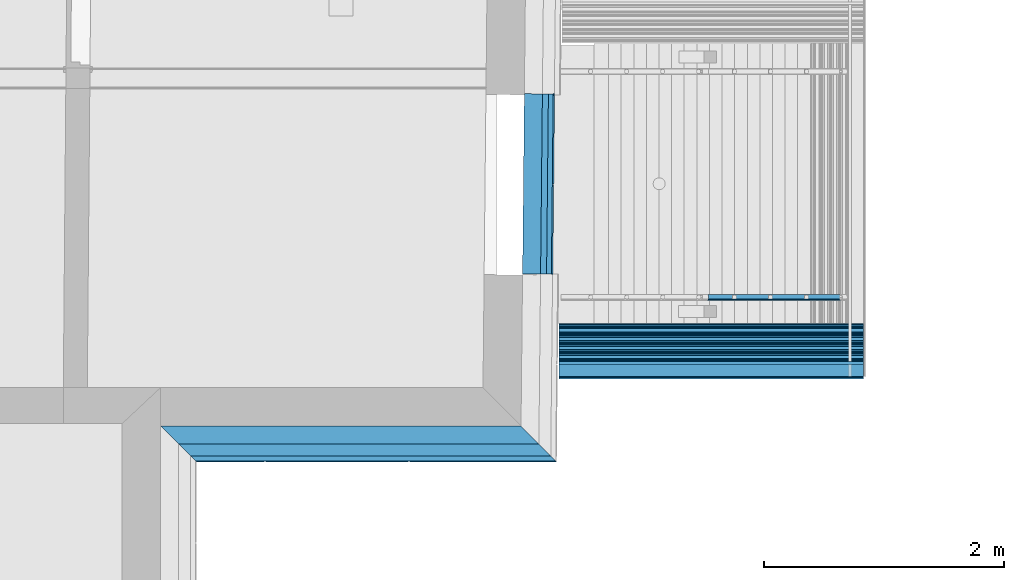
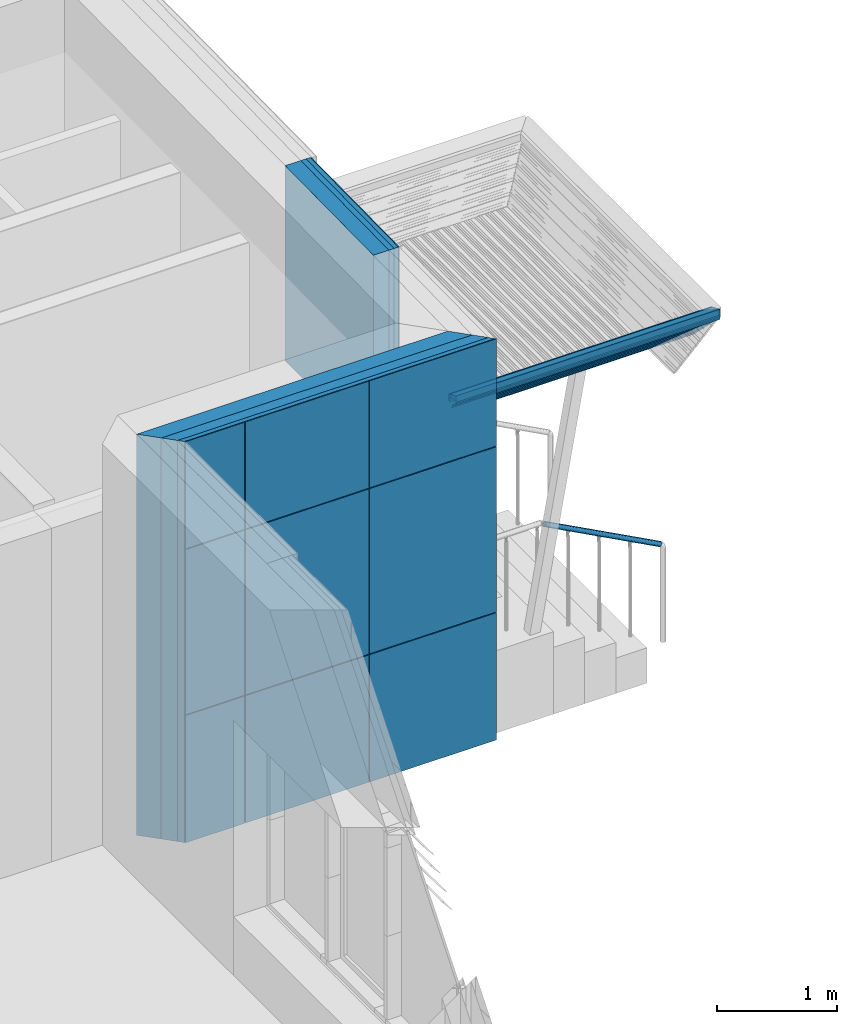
# One storey, part 55 of 418: 19 building element parts, 7 openings, 5 elements without a shape of their own.
"""IFC2X3 building model written with IfcOpenShell, lengths in millimetres."""

from ifc_helpers import new_model, entity, si_unit, converted_unit, derived_unit, money_unit, direction, frame, origin_with_axes, place, context, subcontext, project, spatial, polyline, outline, extrude, faceted_brep, source, transform, mapped, material, type_object, element, aggregate, save


model = new_model("IFC2X3")

# Units and contexts
model_context = context("Model", 3, precision=0.01, world=origin_with_axes(), true_north=direction((0.0, 1.0)))
body_context = subcontext(model_context, "Body", "Model", "MODEL_VIEW")
ifc_project = project(units=[si_unit("LENGTHUNIT", "METRE", prefix="MILLI"), si_unit("AREAUNIT", "SQUARE_METRE"), si_unit("VOLUMEUNIT", "CUBIC_METRE"), converted_unit("PLANEANGLEUNIT", "DEGREE", entity("IfcPlaneAngleMeasure", 0.0174532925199), si_unit("PLANEANGLEUNIT", "RADIAN"), dimensions=[0, 0, 0, 0, 0, 0, 0]), si_unit("SOLIDANGLEUNIT", "STERADIAN"), money_unit("EUR"), converted_unit("TIMEUNIT", "Year", entity("IfcTimeMeasure", 31556926.0), si_unit("TIMEUNIT", "SECOND"), dimensions=[0, 0, 1, 0, 0, 0, 0]), si_unit("MASSUNIT", "GRAM", prefix="KILO"), si_unit("THERMODYNAMICTEMPERATUREUNIT", "DEGREE_CELSIUS"), si_unit("LUMINOUSINTENSITYUNIT", "LUMEN"), si_unit("ENERGYUNIT", "JOULE", prefix="MEGA"), derived_unit("THERMALCONDUCTANCEUNIT", [(si_unit("POWERUNIT", "WATT"), 1), (si_unit("LENGTHUNIT", "METRE"), -1), (si_unit("THERMODYNAMICTEMPERATUREUNIT", "KELVIN"), -1)]), derived_unit("SPECIFICHEATCAPACITYUNIT", [(si_unit("ENERGYUNIT", "JOULE"), 1), (si_unit("MASSUNIT", "GRAM", prefix="KILO"), -1), (si_unit("THERMODYNAMICTEMPERATUREUNIT", "KELVIN"), -1)]), derived_unit("MASSDENSITYUNIT", [(si_unit("MASSUNIT", "GRAM", prefix="KILO"), 1), (si_unit("VOLUMEUNIT", "CUBIC_METRE"), -1)])], contexts=[model_context])

# Site, building, storey
site_placement = place(None, origin_with_axes())
site = spatial("IfcSite", under=ifc_project, at=site_placement, Name="Paldiski mnt 245/1, Tallinn, Harjumaa", CompositionType="COMPLEX")
building_placement = place(site_placement, origin_with_axes())
building = spatial("IfcBuilding", under=site, at=building_placement, Name="RKAS Hoone üldnimetus (kasutust iseloomustav) -> IFC Project Manager -> SOLIBRI", CompositionType="ELEMENT")
storey_placement = place(building_placement, origin_with_axes())
storey = spatial("IfcBuildingStorey", under=building, at=storey_placement, Name="Esimene korrus", CompositionType="ELEMENT", Elevation=0.0)

# Proxies, building element part
building_element_proxy_type_1 = type_object("IfcBuildingElementProxyType", Name="Railing Type", PredefinedType="NOTDEFINED")
proxy_1_placement = place(storey_placement, frame((-46768.8433803, 30891.790867, -641.218687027), z_axis=(0.0, 0.0, 1.0), x_axis=(1.0, 0.0, 0.0)))
proxy_1 = element("IfcBuildingElementProxy", 1, at=proxy_1_placement, inside=storey, type_object=building_element_proxy_type_1, Name="Trepipiire")
building_element_proxy_type_2 = type_object("IfcBuildingElementProxyType", Name="IfcBuildingElementProxy", PredefinedType="NOTDEFINED")
proxy_2_placement = place(proxy_1_placement, frame((1818.60171567, 0.0, 944.098300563), z_axis=(0.0, 0.0, 1.0), x_axis=(1.0, 0.0, 0.0)))
proxy_2 = element("IfcBuildingElementProxy", 2, at=proxy_2_placement, type_object=building_element_proxy_type_2, Name="ÜL PIIRE - 001")
aggregate(proxy_1, [proxy_2])
ifc_material_1 = material(Name="RAL7016")
shared_shape = source(origin_with_axes(), body_context, "Body", "Brep", [
    faceted_brep([(47.7351153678, -3.55978764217, 969.07806159), (47.8817196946, 0.0, 969.35283915), (1162.06617794, 0.0, 374.892859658), (1161.90896311, -3.55978764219, 374.623743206), (49.8212142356, -4.34120444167, 972.987995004), (50.0, 0.0, 973.323089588), (49.8212142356, 4.34120444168, 972.987995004), (49.2902892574, 8.55050358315, 971.992892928), (48.4233569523, 12.5, 970.368019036), (47.2467586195, 16.0696902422, 968.162744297), (45.7962446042, 19.151111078, 965.444074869), (44.1158880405, 21.6506350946, 962.294616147), (42.2567457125, 23.4923155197, 958.81006284), (40.275306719, 24.6201938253, 955.096291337), (38.2317760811, 25.0, 951.266142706), (36.1882454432, 24.6201938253, 947.435994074), (34.2068064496, 23.4923155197, 943.722222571), (32.3476641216, 21.6506350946, 940.237669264), (30.6673075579, 19.151111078, 937.088210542), (29.2167935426, 16.0696902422, 934.369541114), (28.0401952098, 12.5, 932.164266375), (27.1732629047, 8.55050358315, 930.539392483), (26.6423379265, 4.34120444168, 929.544290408), (26.4635521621, 0.0, 929.209195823), (26.6423379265, -4.34120444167, 929.544290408), (27.1732629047, -8.55050358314, 930.539392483), (28.0401952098, -12.5, 932.164266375), (29.2167935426, -16.0696902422, 934.369541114), (30.6673075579, -19.151111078, 937.088210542), (32.3476641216, -21.6506350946, 940.237669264), (34.2068064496, -23.4923155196, 943.722222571), (36.1882454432, -24.6201938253, 947.435994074), (38.2317760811, -25.0, 951.266142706), (40.275306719, -24.6201938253, 955.096291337), (42.2567457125, -23.4923155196, 958.81006284), (44.1158880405, -21.6506350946, 962.294616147), (45.7962446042, -19.151111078, 965.444074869), (47.2467586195, -16.0696902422, 968.162744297), (48.4233569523, -12.5, 970.368019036), (49.2902892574, -8.55050358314, 971.992892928), (47.7351153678, 3.55978764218, 969.07806159), (47.2997568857, -7.01141293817, 968.262077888), (46.5888723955, -10.25, 966.929681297), (45.6240617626, -13.1771459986, 965.121356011), (44.43464027, -15.7039110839, 962.89204708), (43.0567478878, -17.7535207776, 960.309490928), (41.5322511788, -19.2636987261, 957.452157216), (39.9074712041, -20.1885589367, 954.406864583), (38.2317760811, -20.5, 951.266142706), (36.556080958, -20.1885589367, 948.125420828), (34.9313009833, -19.2636987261, 945.080128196), (33.4068042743, -17.7535207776, 942.222794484), (32.0289118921, -15.7039110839, 939.640238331), (30.8394903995, -13.1771459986, 937.4109294), (29.8746797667, -10.25, 935.602604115), (29.1637952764, -7.01141293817, 934.270207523), (28.7284367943, -3.55978764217, 933.454223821), (28.5818324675, 0.0, 933.179446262), (28.7284367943, 3.55978764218, 933.454223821), (29.1637952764, 7.01141293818, 934.270207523), (29.8746797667, 10.25, 935.602604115), (30.8394903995, 13.1771459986, 937.4109294), (32.0289118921, 15.7039110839, 939.640238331), (33.4068042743, 17.7535207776, 942.222794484), (34.9313009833, 19.2636987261, 945.080128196), (36.556080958, 20.1885589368, 948.125420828), (38.2317760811, 20.5, 951.266142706), (39.9074712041, 20.1885589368, 954.406864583), (41.5322511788, 19.2636987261, 957.452157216), (43.0567478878, 17.7535207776, 960.309490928), (44.43464027, 15.7039110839, 962.89204708), (45.6240617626, 13.1771459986, 965.121356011), (46.5888723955, 10.25, 966.929681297), (47.2997568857, 7.01141293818, 968.262077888), (1161.90896311, 3.55978764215, 374.623743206), (1145.40784379, 21.6506350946, 346.377535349), (1147.4015417, 23.4923155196, 349.790298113), (1149.52638751, 24.6201938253, 353.427556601), (1151.71781885, 25.0, 357.178794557), (1153.90925019, 24.6201938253, 360.930032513), (1156.03409599, 23.4923155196, 364.567291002), (1158.0277939, 21.6506350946, 367.980053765), (1159.82976642, 19.151111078, 371.064625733), (1161.3852615, 16.0696902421, 373.727283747), (1162.64701624, 12.5, 375.887124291), (1163.57669284, 8.55050358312, 377.478521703), (1164.14604356, 4.34120444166, 378.453122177), (1164.33776896, 0.0, 378.781312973), (1164.14604356, -4.34120444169, 378.453122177), (1163.57669284, -8.55050358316, 377.478521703), (1162.64701624, -12.5, 375.887124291), (1161.3852615, -16.0696902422, 373.727283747), (1159.82976642, -19.151111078, 371.064625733), (1158.0277939, -21.6506350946, 367.980053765), (1156.03409599, -23.4923155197, 364.567291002), (1153.90925019, -24.6201938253, 360.930032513), (1151.71781885, -25.0, 357.178794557), (1149.52638751, -24.6201938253, 353.427556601), (1147.4015417, -23.4923155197, 349.790298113), (1145.40784379, -21.6506350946, 346.377535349), (1143.60587128, -19.151111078, 343.292963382), (1142.05037619, -16.0696902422, 340.630305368), (1140.78862146, -12.5, 338.470464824), (1139.85894485, -8.55050358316, 336.879067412), (1139.28959413, -4.34120444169, 335.904466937), (1139.09786873, 0.0, 335.576276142), (1139.28959413, 4.34120444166, 335.904466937), (1139.85894485, 8.55050358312, 336.879067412), (1140.78862146, 12.5, 338.470464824), (1142.05037619, 16.0696902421, 340.630305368), (1143.60587128, 19.151111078, 343.292963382), (1156.89199839, 17.7535207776, 366.035827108), (1155.25716611, 19.2636987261, 363.237361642), (1153.51479255, 20.1885589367, 360.254809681), (1151.71781885, 20.5, 357.178794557), (1149.92084515, 20.1885589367, 354.102779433), (1148.17847159, 19.2636987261, 351.120227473), (1146.5436393, 17.7535207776, 348.321762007), (1145.06602184, 15.7039110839, 345.792412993), (1143.79051587, 13.1771459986, 343.609033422), (1142.75587699, 10.25, 341.837964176), (1141.99354217, 7.01141293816, 340.533018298), (1141.52667458, 3.55978764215, 339.733845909), (1141.36945976, 0.0, 339.464729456), (1141.52667458, -3.55978764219, 339.733845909), (1141.99354217, -7.01141293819, 340.533018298), (1142.75587699, -10.25, 341.837964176), (1143.79051587, -13.1771459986, 343.609033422), (1145.06602184, -15.703911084, 345.792412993), (1146.5436393, -17.7535207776, 348.321762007), (1148.17847159, -19.2636987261, 351.120227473), (1149.92084515, -20.1885589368, 354.102779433), (1151.71781885, -20.5, 357.178794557), (1153.51479255, -20.1885589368, 360.254809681), (1155.25716611, -19.2636987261, 363.237361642), (1156.89199839, -17.7535207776, 366.035827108), (1158.36961585, -15.703911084, 368.565176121), (1159.64512183, -13.1771459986, 370.748555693), (1160.67976071, -10.25, 372.519624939), (1161.44209552, -7.01141293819, 373.824570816), (1161.44209552, 7.01141293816, 373.824570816), (1160.67976071, 10.25, 372.519624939), (1159.64512183, 13.1771459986, 370.748555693), (1158.36961585, 15.7039110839, 368.565176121)], [[[0, 1, 2, 3]], [[4, 5, 6, 7, 8, 9, 10, 11, 12, 13, 14, 15, 16, 17, 18, 19, 20, 21, 22, 23, 24, 25, 26, 27, 28, 29, 30, 31, 32, 33, 34, 35, 36, 37, 38, 39], [40, 1, 0, 41, 42, 43, 44, 45, 46, 47, 48, 49, 50, 51, 52, 53, 54, 55, 56, 57, 58, 59, 60, 61, 62, 63, 64, 65, 66, 67, 68, 69, 70, 71, 72, 73]], [[1, 40, 74, 2]], [[75, 76, 77, 78, 79, 80, 81, 82, 83, 84, 85, 86, 87, 88, 89, 90, 91, 92, 93, 94, 95, 96, 97, 98, 99, 100, 101, 102, 103, 104, 105, 106, 107, 108, 109, 110], [111, 112, 113, 114, 115, 116, 117, 118, 119, 120, 121, 122, 123, 124, 125, 126, 127, 128, 129, 130, 131, 132, 133, 134, 135, 136, 137, 138, 139, 3, 2, 74, 140, 141, 142, 143]], [[41, 0, 3, 139]], [[5, 4, 88, 87]], [[6, 5, 87, 86]], [[7, 6, 86, 85]], [[8, 7, 85, 84]], [[9, 8, 84, 83]], [[10, 9, 83, 82]], [[11, 10, 82, 81]], [[12, 11, 81, 80]], [[13, 12, 80, 79]], [[14, 13, 79, 78]], [[15, 14, 78, 77]], [[16, 15, 77, 76]], [[17, 16, 76, 75]], [[18, 17, 75, 110]], [[19, 18, 110, 109]], [[20, 19, 109, 108]], [[21, 20, 108, 107]], [[22, 21, 107, 106]], [[23, 22, 106, 105]], [[24, 23, 105, 104]], [[25, 24, 104, 103]], [[26, 25, 103, 102]], [[27, 26, 102, 101]], [[28, 27, 101, 100]], [[29, 28, 100, 99]], [[30, 29, 99, 98]], [[31, 30, 98, 97]], [[32, 31, 97, 96]], [[33, 32, 96, 95]], [[34, 33, 95, 94]], [[35, 34, 94, 93]], [[36, 35, 93, 92]], [[37, 36, 92, 91]], [[38, 37, 91, 90]], [[39, 38, 90, 89]], [[4, 39, 89, 88]], [[42, 41, 139, 138]], [[43, 42, 138, 137]], [[44, 43, 137, 136]], [[45, 44, 136, 135]], [[46, 45, 135, 134]], [[47, 46, 134, 133]], [[48, 47, 133, 132]], [[49, 48, 132, 131]], [[50, 49, 131, 130]], [[51, 50, 130, 129]], [[52, 51, 129, 128]], [[53, 52, 128, 127]], [[54, 53, 127, 126]], [[55, 54, 126, 125]], [[56, 55, 125, 124]], [[57, 56, 124, 123]], [[58, 57, 123, 122]], [[59, 58, 122, 121]], [[60, 59, 121, 120]], [[61, 60, 120, 119]], [[62, 61, 119, 118]], [[63, 62, 118, 117]], [[64, 63, 117, 116]], [[65, 64, 116, 115]], [[66, 65, 115, 114]], [[67, 66, 114, 113]], [[68, 67, 113, 112]], [[69, 68, 112, 111]], [[70, 69, 111, 143]], [[71, 70, 143, 142]], [[72, 71, 142, 141]], [[73, 72, 141, 140]], [[40, 73, 140, 74]]]),
])
building_element_part_1_placement = place(proxy_2_placement, origin_with_axes())
building_element_part_1 = element("IfcBuildingElementPart", 3, at=building_element_part_1_placement, material=ifc_material_1, Name="RAL7016", context=body_context, shape_type="MappedRepresentation", body=[
    mapped(shared_shape, transform((-607.16888448, 0.0, -322.879613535))),
])
aggregate(proxy_2, [building_element_part_1])

# Wall, openings, building element parts
wall_type_1 = type_object("IfcWallType", Name="VS-03.1_uued_kihid 250", PredefinedType="NOTDEFINED")
wall_1_placement = place(storey_placement, frame((-47040.7683559, 32587.1633127, 2100.0), z_axis=(0.0, 0.0, 1.0), x_axis=(-0.0100813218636, -0.999949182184, 0.0)))
wall_1 = element("IfcWall", 4, at=wall_1_placement, inside=storey, type_object=wall_type_1, Name="VS-03.1")
opening_1_placement = place(wall_1_placement, frame((8.54437638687, 0.0, 0.0), z_axis=(0.0, 0.0, 1.0), x_axis=(1.0, 0.0, 0.0)))
element("IfcOpeningElement", 5, at=opening_1_placement, cuts=wall_1, Name="Cembrit fassaadiplaadi vuuk", context=body_context, shape_type="SweptSolid", body=[
    extrude(outline(polyline([(-4.00000000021, 0.0), (3.99999999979, 0.0), (3.99999999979, 1990.0), (-4.00000000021, 1990.0), (-4.00000000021, 0.0)])), frame((1.98951966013e-10, 242.0, 0.0), z_axis=(0.0, -1.0, 0.0), x_axis=(1.0, 0.0, 0.0)), (0.0, 0.0, -1.0), 258.0),
])
opening_2_placement = place(wall_1_placement, frame((753.582237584, 0.0, 0.0), z_axis=(0.0, 0.0, 1.0), x_axis=(1.0, 0.0, 0.0)))
element("IfcOpeningElement", 6, at=opening_2_placement, cuts=wall_1, Name="Cembrit fassaadiplaadi vuuk", context=body_context, shape_type="SweptSolid", body=[
    extrude(outline(polyline([(-4.0000000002, 0.0), (3.9999999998, 0.0), (3.9999999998, 1990.0), (-4.0000000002, 1990.0), (-4.0000000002, 0.0)])), frame((1.95399252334e-10, 242.0, 0.0), z_axis=(0.0, -1.0, 0.0), x_axis=(1.0, 0.0, 0.0)), (0.0, 0.0, -1.0), 258.0),
])
opening_3_placement = place(wall_1_placement, frame((754.358021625, 0.0, 890.0), z_axis=(0.0, 0.0, 1.0), x_axis=(1.0, 0.0, 0.0)))
element("IfcOpeningElement", 7, at=opening_3_placement, cuts=wall_1, Name="Cembrit fassaadiplaadi vuuk", context=body_context, shape_type="SweptSolid", body=[
    extrude(outline(polyline([(-744.756212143, 0.0), (744.756212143, 0.0), (744.756212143, 8.0), (-744.756212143, 8.0), (-744.756212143, 0.0)])), frame((0.0, 242.0, 0.0), z_axis=(0.0, -1.0, 0.0), x_axis=(1.0, 0.0, 0.0)), (0.0, 0.0, -1.0), 258.0),
])
ifc_material_2 = material(Name="Cembrit_C060")
building_element_part_2_placement = place(wall_1_placement, origin_with_axes())
building_element_part_2 = element("IfcBuildingElementPart", 8, at=building_element_part_2_placement, material=ifc_material_2, Name="Cembrit_C060", context=body_context, shape_type="SweptSolid", body=[
    extrude(outline(polyline([(0.0, 242.0), (1500.0, 242.0), (1500.0, 250.0), (0.0, 250.0), (0.0, 242.0)])), origin_with_axes(), (0.0, 0.0, 1.0), 1990.0),
])
ifc_material_3 = material(Name="VKR-06_Õhkvahe")
building_element_part_3_placement = place(wall_1_placement, origin_with_axes())
building_element_part_3 = element("IfcBuildingElementPart", 9, at=building_element_part_3_placement, material=ifc_material_3, Name="VKR-06_Õhkvahe", context=body_context, shape_type="SweptSolid", body=[
    extrude(outline(polyline([(0.0, 200.0), (1500.0, 200.0), (1500.0, 242.0), (0.0, 242.0), (0.0, 200.0)])), origin_with_axes(), (0.0, 0.0, 1.0), 1990.0),
])
ifc_material_4 = material(Name="Kingspan Kooltherm")
building_element_part_4_placement = place(wall_1_placement, origin_with_axes())
building_element_part_4 = element("IfcBuildingElementPart", 10, at=building_element_part_4_placement, material=ifc_material_4, Name="Kingspan Kooltherm", context=body_context, shape_type="SweptSolid", body=[
    extrude(outline(polyline([(0.0, 150.0), (1500.0, 150.0), (1500.0, 200.0), (0.0, 200.0), (0.0, 150.0)])), origin_with_axes(), (0.0, 0.0, 1.0), 1990.0),
])
building_element_part_5_placement = place(wall_1_placement, origin_with_axes())
building_element_part_5 = element("IfcBuildingElementPart", 11, at=building_element_part_5_placement, material=ifc_material_4, Name="Kingspan Kooltherm", context=body_context, shape_type="SweptSolid", body=[
    extrude(outline(polyline([(0.0, 0.0), (1500.0, 0.0), (1500.0, 150.0), (0.0, 150.0), (0.0, 0.0)])), origin_with_axes(), (0.0, 0.0, 1.0), 1990.0),
])
aggregate(wall_1, [building_element_part_2, building_element_part_3, building_element_part_4, building_element_part_5])

# Proxy, building element parts
building_element_proxy_type_3 = type_object("IfcBuildingElementProxyType", Name="Varikatus_01_02_03_raastas_01_02_03 463 x 518", PredefinedType="NOTDEFINED")
proxy_3_placement = place(storey_placement, frame((-44217.6409449, 30232.7908651, 3002.0), z_axis=(0.0, 0.0, 1.0), x_axis=(-1.0, 0.0, 0.0)))
proxy_3 = element("IfcBuildingElementProxy", 12, at=proxy_3_placement, inside=storey, type_object=building_element_proxy_type_3, Name="Varikatus")
ifc_material_5 = material(Name="Laudis 5072 Honka 45 horisontaalne raastas")
building_element_part_6_placement = place(proxy_3_placement, origin_with_axes())
building_element_part_6 = element("IfcBuildingElementPart", 13, at=building_element_part_6_placement, material=ifc_material_5, Name="Laudis 5072 Honka 45 horisontaalne raastas", context=body_context, shape_type="SweptSolid", body=[
    extrude(outline(polyline([(-0.707110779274, -28.991377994), (70.0035572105, -99.7020658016), (77.0746259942, -92.6309996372), (62.9324932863, -78.4888616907), (70.7106681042, -70.7106876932), (60.4037490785, -60.4037652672), (55.4540010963, -65.3535115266), (51.4654463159, -61.3649565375), (56.4151941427, -56.4152087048), (45.9298674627, -45.9298803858), (40.9801194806, -50.8796266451), (36.6477185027, -46.5472250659), (41.5974664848, -41.5974788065), (31.0339169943, -31.0339261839), (26.0841690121, -35.9836724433), (21.5852050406, -31.4847067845), (26.5349528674, -26.5349589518), (0.0, 0.0), (-7.42462197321, -7.42461938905), (6.71751230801, -21.5667571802), (-0.707110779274, -28.991377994)])), frame((0.0, 0.0, 0.0), z_axis=(-1.0, 0.0, 0.0), x_axis=(0.0, -1.0, 0.0)), (0.0, 0.0, -1.0), 2534.3653311),
])
building_element_part_7_placement = place(proxy_3_placement, origin_with_axes())
building_element_part_7 = element("IfcBuildingElementPart", 14, at=building_element_part_7_placement, material=ifc_material_5, Name="Laudis 5072 Honka 45 horisontaalne raastas", context=body_context, shape_type="SweptSolid", body=[
    extrude(outline(polyline([(73.6350649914, -103.3335746), (144.345732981, -174.044262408), (151.416801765, -166.973196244), (137.274669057, -152.831058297), (145.052843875, -145.0528843), (134.745924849, -134.745961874), (129.796176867, -139.695708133), (125.807622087, -135.707153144), (130.757369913, -130.757405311), (120.272043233, -120.272076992), (115.322295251, -125.221823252), (110.989894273, -120.889421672), (115.939642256, -115.939675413), (105.376092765, -105.37612279), (100.426344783, -110.32586905), (95.9273808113, -105.826903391), (100.877128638, -100.877155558), (74.3421757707, -74.3421966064), (66.9175537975, -81.7668159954), (81.0596880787, -95.9089537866), (73.6350649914, -103.3335746)])), frame((0.0, 0.0, 0.0), z_axis=(-1.0, 0.0, 0.0), x_axis=(0.0, -1.0, 0.0)), (0.0, 0.0, -1.0), 2534.3653311),
])
building_element_part_8_placement = place(proxy_3_placement, origin_with_axes())
building_element_part_8 = element("IfcBuildingElementPart", 15, at=building_element_part_8_placement, material=ifc_material_5, Name="Laudis 5072 Honka 45 horisontaalne raastas", context=body_context, shape_type="SweptSolid", body=[
    extrude(outline(polyline([(147.977240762, -177.675771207), (218.687908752, -248.386459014), (225.758977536, -241.31539285), (211.616844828, -227.173254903), (219.395019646, -219.395080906), (209.08810062, -209.08815848), (204.138352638, -214.037904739), (200.149797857, -210.04934975), (205.099545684, -205.099601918), (194.614219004, -194.614273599), (189.664471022, -199.564019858), (185.332070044, -195.231618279), (190.281818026, -190.281872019), (179.718268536, -179.718319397), (174.768520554, -184.668065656), (170.269556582, -180.169099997), (175.219304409, -175.219352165), (148.684351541, -148.684393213), (141.259729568, -156.109012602), (155.401863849, -170.251150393), (147.977240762, -177.675771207)])), frame((0.0, 0.0, 0.0), z_axis=(-1.0, 0.0, 0.0), x_axis=(0.0, -1.0, 0.0)), (0.0, 0.0, -1.0), 2534.3653311),
])
building_element_part_9_placement = place(proxy_3_placement, origin_with_axes())
building_element_part_9 = element("IfcBuildingElementPart", 16, at=building_element_part_9_placement, material=ifc_material_5, Name="Laudis 5072 Honka 45 horisontaalne raastas", context=body_context, shape_type="SweptSolid", body=[
    extrude(outline(polyline([(222.223442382, -251.921993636), (292.934110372, -322.632681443), (300.005179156, -315.561615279), (285.863046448, -301.419477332), (293.641221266, -293.641303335), (283.33430224, -283.334380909), (278.384554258, -288.284127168), (274.395999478, -284.295572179), (279.345747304, -279.345824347), (268.860420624, -268.860496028), (263.910672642, -273.810242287), (259.578271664, -269.477840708), (264.528019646, -264.528094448), (253.964470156, -253.964541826), (249.014722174, -258.914288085), (244.515758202, -254.415322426), (249.465506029, -249.465574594), (222.930553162, -222.930615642), (215.505931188, -230.355235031), (229.64806547, -244.497372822), (222.223442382, -251.921993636)])), frame((0.0, 0.0, 0.0), z_axis=(-1.0, 0.0, 0.0), x_axis=(0.0, -1.0, 0.0)), (0.0, 0.0, -1.0), 2534.3653311),
])
building_element_part_10_placement = place(proxy_3_placement, origin_with_axes())
building_element_part_10 = element("IfcBuildingElementPart", 17, at=building_element_part_10_placement, material=ifc_material_5, Name="Laudis 5072 Honka 45 horisontaalne raastas", context=body_context, shape_type="SweptSolid", body=[
    extrude(outline(polyline([(296.469644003, -326.168216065), (367.180311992, -396.878903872), (374.251380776, -389.807837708), (360.109248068, -375.665699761), (367.887422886, -367.887525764), (357.58050386, -357.580603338), (352.630755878, -362.530349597), (348.642201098, -358.541794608), (353.591948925, -353.592046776), (343.106622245, -343.106718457), (338.156874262, -348.056464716), (333.824473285, -343.724063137), (338.774221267, -338.774316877), (328.210671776, -328.210764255), (323.260923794, -333.160510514), (318.761959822, -328.661544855), (323.711707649, -323.711797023), (297.176754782, -297.176838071), (289.752132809, -304.60145746), (303.89426709, -318.743595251), (296.469644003, -326.168216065)])), frame((0.0, 0.0, 0.0), z_axis=(-1.0, 0.0, 0.0), x_axis=(0.0, -1.0, 0.0)), (0.0, 0.0, -1.0), 2534.3653311),
])
building_element_part_11_placement = place(proxy_3_placement, origin_with_axes())
building_element_part_11 = element("IfcBuildingElementPart", 18, at=building_element_part_11_placement, material=ifc_material_5, Name="Laudis 5072 Honka 45 horisontaalne raastas", context=body_context, shape_type="SweptSolid", body=[
    extrude(outline(polyline([(371.422956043, -371.4230605), (363.998334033, -378.84767996), (378.140468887, -392.989818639), (370.715845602, -400.414438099), (412.435143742, -442.133747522), (442.133623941, -442.133747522), (431.826706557, -431.826826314), (426.876957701, -436.776571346), (422.888402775, -432.78801642), (427.838150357, -427.838270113), (417.352823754, -417.35294096), (412.403076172, -422.302687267), (408.070675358, -417.970285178), (413.02042294, -413.020540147), (402.456873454, -402.456986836), (397.507125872, -407.406731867), (393.00816134, -402.907767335), (397.957910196, -397.958019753), (371.422956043, -371.4230605)])), frame((0.0, 0.0, 0.0), z_axis=(-1.0, 0.0, 0.0), x_axis=(0.0, -1.0, 0.0)), (0.0, 0.0, -1.0), 2534.3653311),
])
ifc_material_6 = material(Name="Puit - Konstruktsioon")
building_element_part_12_placement = place(proxy_3_placement, origin_with_axes())
building_element_part_12 = element("IfcBuildingElementPart", 19, at=building_element_part_12_placement, material=ifc_material_6, Name="Puit - Konstruktsioon", context=body_context, shape_type="SweptSolid", body=[
    extrude(outline(polyline([(1.15655691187e-06, 64.9893416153), (1.15655691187e-06, 4.50304654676e-07), (99.5753771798, 4.50304654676e-07), (99.5753771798, 24.9999969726), (1.15655691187e-06, 64.9893416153)])), frame((0.0, 0.0, 0.0), z_axis=(-1.0, 0.0, 0.0), x_axis=(0.0, -1.0, 0.0)), (0.0, 0.0, -1.0), 2534.3653311),
])
building_element_part_13_placement = place(proxy_3_placement, origin_with_axes())
building_element_part_13 = element("IfcBuildingElementPart", 20, at=building_element_part_13_placement, material=ifc_material_1, Name="RAL7016", context=body_context, shape_type="SweptSolid", body=[
    extrude(outline(polyline([(-20.9999961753, -28.4630715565), (-8.11233371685, -15.5753892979), (-8.81944068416, -14.8682823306), (-20.0, -26.0488592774), (-20.0, 74.5582444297), (99.5753779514, 26.5369258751), (99.9264049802, 27.9350719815), (-20.9999961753, 75.7446341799), (-20.9999961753, -28.4630715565)])), frame((0.0, 0.0, 0.0), z_axis=(-1.0, 0.0, 0.0), x_axis=(0.0, -1.0, 0.0)), (0.0, 0.0, -1.0), 2534.3653311),
])
ifc_material_7 = material(Name="PVC")
building_element_part_14_placement = place(proxy_3_placement, origin_with_axes())
building_element_part_14 = element("IfcBuildingElementPart", 21, at=building_element_part_14_placement, material=ifc_material_7, Name="PVC", context=body_context, shape_type="SweptSolid", body=[
    extrude(outline(polyline([(-8.02250845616e-07, 66.4893437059), (1.06016954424e-06, 64.9893410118), (123.575378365, 15.3616278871), (123.575378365, -54.6383718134), (124.984796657, -54.6383718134), (124.984796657, 16.4879117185), (-8.02250845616e-07, 66.4893437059)])), frame((0.0, 0.0, 0.0), z_axis=(-1.0, 0.0, 0.0), x_axis=(0.0, -1.0, 0.0)), (0.0, 0.0, -1.0), 2534.3653311),
])
ifc_material_8 = material(Name="Veekindel vineer 24 mm")
building_element_part_15_placement = place(proxy_3_placement, origin_with_axes())
building_element_part_15 = element("IfcBuildingElementPart", 22, at=building_element_part_15_placement, material=ifc_material_8, Name="Veekindel vineer 24 mm", context=body_context, shape_type="SweptSolid", body=[
    extrude(outline(polyline([(99.5753780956, 24.99999609), (99.5753780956, -54.6383718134), (123.575378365, -54.6383718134), (123.575378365, 15.3616278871), (99.5753780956, 24.99999609)])), frame((0.0, 0.0, 0.0), z_axis=(-1.0, 0.0, 0.0), x_axis=(0.0, -1.0, 0.0)), (0.0, 0.0, -1.0), 2534.3653311),
])
aggregate(proxy_3, [building_element_part_6, building_element_part_7, building_element_part_8, building_element_part_9, building_element_part_10, building_element_part_11, building_element_part_12, building_element_part_13, building_element_part_14, building_element_part_15])

# Wall, openings, building element parts
wall_type_2 = type_object("IfcWallType", Name="VS-03D_uued_kihid 300", PredefinedType="NOTDEFINED")
wall_2_placement = place(storey_placement, frame((-50070.0, 29819.8287244, 0.0), z_axis=(0.0, 0.0, 1.0), x_axis=(1.0, 0.0, 0.0)))
wall_2 = element("IfcWall", 23, at=wall_2_placement, inside=storey, type_object=wall_type_2, Name="VS-03")
opening_4_placement = place(wall_2_placement, frame((869.980985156, 3.69482222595e-10, 0.0), z_axis=(0.0, 0.0, 1.0), x_axis=(1.0, 0.0, 0.0)))
element("IfcOpeningElement", 24, at=opening_4_placement, cuts=wall_2, Name="Cembrit fassaadiplaadi vuuk", context=body_context, shape_type="SweptSolid", body=[
    extrude(outline(polyline([(-3.99999999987, 0.0), (4.00000000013, 0.0), (4.00000000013, 4090.0), (-3.99999999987, 4090.0), (-3.99999999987, 0.0)])), frame((-1.20792265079e-10, -292.0, 0.0), z_axis=(0.0, -1.0, 0.0), x_axis=(1.0, 0.0, 0.0)), (0.0, 0.0, 1.0), 308.0),
])
opening_5_placement = place(wall_2_placement, frame((2069.98098516, 8.81072992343e-10, 0.0), z_axis=(0.0, 0.0, 1.0), x_axis=(1.0, 0.0, 0.0)))
element("IfcOpeningElement", 25, at=opening_5_placement, cuts=wall_2, Name="Cembrit fassaadiplaadi vuuk", context=body_context, shape_type="SweptSolid", body=[
    extrude(outline(polyline([(-3.99999999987, 0.0), (4.00000000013, 0.0), (4.00000000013, 4090.0), (-3.99999999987, 4090.0), (-3.99999999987, 0.0)])), frame((-1.20792265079e-10, -292.000000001, 0.0), z_axis=(0.0, -1.0, 0.0), x_axis=(1.0, 0.0, 0.0)), (0.0, 0.0, 1.0), 308.0),
])
opening_6_placement = place(wall_2_placement, frame((1795.16126579, 7.63833440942e-10, 2990.0), z_axis=(0.0, 0.0, 1.0), x_axis=(1.0, 0.0, 0.0)))
element("IfcOpeningElement", 26, at=opening_6_placement, cuts=wall_2, Name="Cembrit fassaadiplaadi vuuk", context=body_context, shape_type="SweptSolid", body=[
    extrude(outline(polyline([(-1503.16126578, 0.0), (1503.16126579, 0.0), (1503.16126579, 8.0), (-1503.16126578, 8.0), (-1503.16126578, 0.0)])), frame((-1.20792265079e-10, -292.000000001, 0.0), z_axis=(0.0, -1.0, 0.0), x_axis=(1.0, 0.0, 0.0)), (0.0, 0.0, 1.0), 308.0),
])
opening_7_placement = place(wall_2_placement, frame((1795.16126579, 7.63833440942e-10, 1298.0), z_axis=(0.0, 0.0, 1.0), x_axis=(1.0, 0.0, 0.0)))
element("IfcOpeningElement", 27, at=opening_7_placement, cuts=wall_2, Name="Cembrit fassaadiplaadi vuuk", context=body_context, shape_type="SweptSolid", body=[
    extrude(outline(polyline([(-1503.16126578, 0.0), (1503.16126579, 0.0), (1503.16126579, 8.0), (-1503.16126578, 8.0), (-1503.16126578, 0.0)])), frame((-1.20792265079e-10, -292.000000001, 0.0), z_axis=(0.0, -1.0, 0.0), x_axis=(1.0, 0.0, 0.0)), (0.0, 0.0, 1.0), 308.0),
])
ifc_material_9 = material(Name="Cembrit_C020")
building_element_part_16_placement = place(wall_2_placement, origin_with_axes())
building_element_part_16 = element("IfcBuildingElementPart", 28, at=building_element_part_16_placement, material=ifc_material_9, Name="Cembrit_C020", context=body_context, shape_type="SweptSolid", body=[
    extrude(outline(polyline([(300.0, -300.0), (3298.32253142, -300.0), (3290.40277953, -292.0), (292.0, -292.0), (300.0, -300.0)])), origin_with_axes(), (0.0, 0.0, 1.0), 4090.0),
])
building_element_part_17_placement = place(wall_2_placement, origin_with_axes())
building_element_part_17 = element("IfcBuildingElementPart", 29, at=building_element_part_17_placement, material=ifc_material_3, Name="VKR-06_Õhkvahe", context=body_context, shape_type="SweptSolid", body=[
    extrude(outline(polyline([(292.0, -292.0), (3290.40277953, -292.0), (3248.82408211, -250.0), (250.0, -250.0), (292.0, -292.0)])), origin_with_axes(), (0.0, 0.0, 1.0), 4090.0),
])
building_element_part_18_placement = place(wall_2_placement, origin_with_axes())
building_element_part_18 = element("IfcBuildingElementPart", 30, at=building_element_part_18_placement, material=ifc_material_4, Name="Kingspan Kooltherm", context=body_context, shape_type="SweptSolid", body=[
    extrude(outline(polyline([(250.0, -250.0), (3248.82408211, -250.0), (3149.8271835, -150.0), (150.0, -150.0), (250.0, -250.0)])), origin_with_axes(), (0.0, 0.0, 1.0), 4090.0),
])
building_element_part_19_placement = place(wall_2_placement, origin_with_axes())
building_element_part_19 = element("IfcBuildingElementPart", 31, at=building_element_part_19_placement, material=ifc_material_4, Name="Kingspan Kooltherm", context=body_context, shape_type="SweptSolid", body=[
    extrude(outline(polyline([(150.0, -150.0), (3149.8271835, -150.0), (3001.33183557, 0.0), (0.0, 0.0), (150.0, -150.0)])), origin_with_axes(), (0.0, 0.0, 1.0), 4090.0),
])
aggregate(wall_2, [building_element_part_16, building_element_part_17, building_element_part_18, building_element_part_19])

save(model, "model.ifc")
